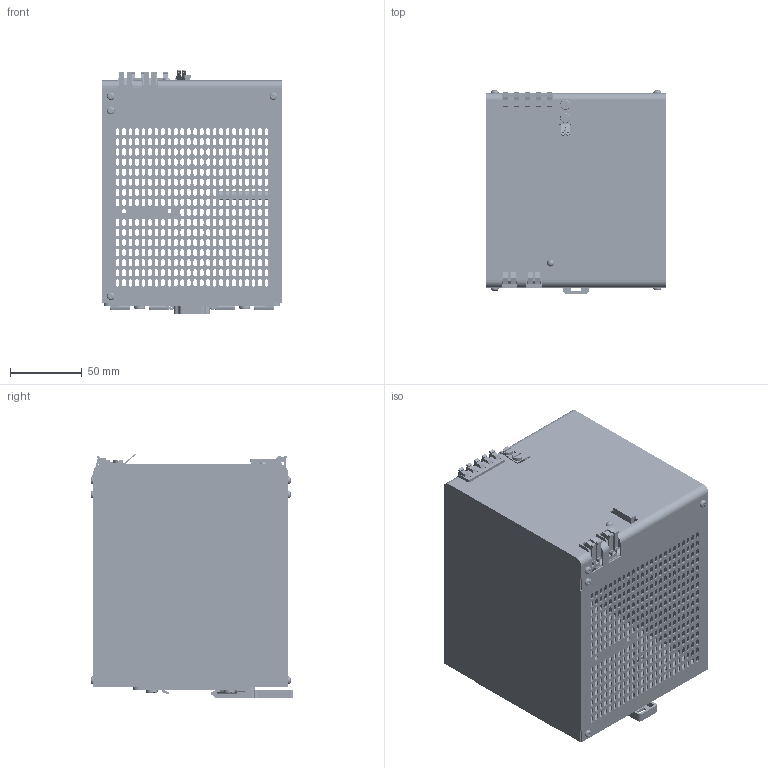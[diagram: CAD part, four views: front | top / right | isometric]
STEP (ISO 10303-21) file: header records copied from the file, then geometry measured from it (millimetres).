
FILE_DESCRIPTION(('STEP AP214'),'1');
FILE_NAME('65682.stp','2017-04-25T12:09:24',('TraceParts'),('TraceParts S.A.'),'Spatial InterOp 3D',' ',' ');
FILE_SCHEMA(('automotive_design'));
Length unit declared in the file: millimetre
Products named in the file (36): 65682_1; 65682_2; 65682_3; 65682_4; 65682_5; 65682_6; 65682_7; 65682_8; 65682_9; 65682_10; 65682_11; 65682_12; 65682_13; 65682_14; 65682_15; 65682_16; 65682_17; 65682_18; 65682_19; 65682_20; 65682_21; 65682_22; 65682_23; 65682_24; 65682_25; 65682_26; 65682_27; 65682_28; 65682_29; 65682_30; 65682_31; 65682_32; 65682_33; 65682_34; 65682_35; 65682_36
Bounding box: 125 x 140.93 x 169.87 mm (x, y, z)
Volume: 142747.9 mm3; surface area: 268950.1 mm2
Topology: 36 solids, 37 shells, 5980 faces, 17391 edges, 11533 vertices
Faces by surface type: cylinder 3350, plane 2522, torus 70, cone 36, sphere 2
Entity records: 252331 total; most frequent: DIRECTION 36151, CARTESIAN_POINT 35978, ORIENTED_EDGE 34762, EDGE_CURVE 17381, AXIS2_PLACEMENT_3D 12948, VERTEX_POINT 11533, LINE 10255, VECTOR 10255
